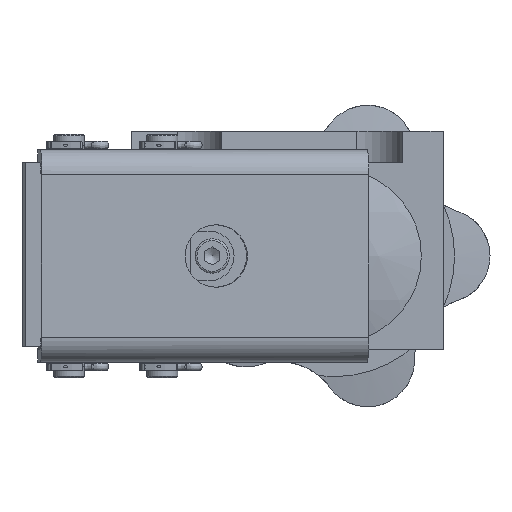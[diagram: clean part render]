
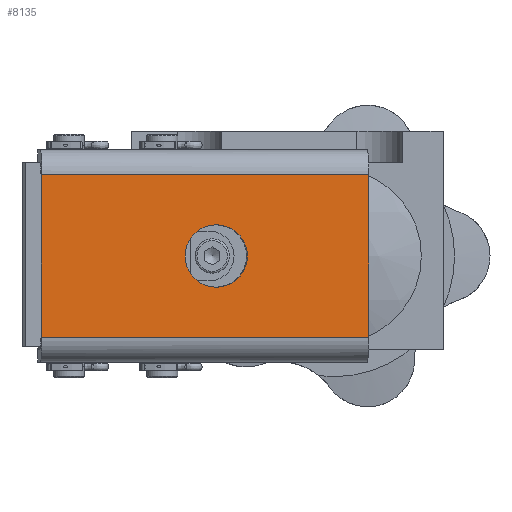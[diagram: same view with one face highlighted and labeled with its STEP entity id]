
A CAD part, left-side view. The second image highlights one B-rep face of the part: STEP entity #8135.
In plain terms, the highlighted planar face has unit normal (-0.998, -0.067, 0).
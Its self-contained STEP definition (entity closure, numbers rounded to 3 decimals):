
#386=FACE_BOUND('',#1534,.T.);
#540=PLANE('',#8918);
#1066=FACE_OUTER_BOUND('',#1533,.T.);
#1533=EDGE_LOOP('',(#7339,#7340,#7341,#7342));
#1534=EDGE_LOOP('',(#7343));
#2027=LINE('',#19386,#2556);
#2049=LINE('',#19458,#2578);
#2058=LINE('',#19482,#2587);
#2059=LINE('',#19483,#2588);
#2556=VECTOR('',#10812,10.);
#2578=VECTOR('',#10888,10.);
#2587=VECTOR('',#10917,10.);
#2588=VECTOR('',#10918,10.);
#3060=CIRCLE('',#8894,5.);
#3853=VERTEX_POINT('',#19383);
#3854=VERTEX_POINT('',#19385);
#3868=VERTEX_POINT('',#19424);
#3877=VERTEX_POINT('',#19456);
#3882=VERTEX_POINT('',#19481);
#5020=EDGE_CURVE('',#3854,#3853,#2027,.T.);
#5041=EDGE_CURVE('',#3868,#3868,#3060,.T.);
#5057=EDGE_CURVE('',#3853,#3877,#2049,.T.);
#5070=EDGE_CURVE('',#3877,#3882,#2058,.T.);
#5071=EDGE_CURVE('',#3854,#3882,#2059,.T.);
#7339=ORIENTED_EDGE('',*,*,#5070,.T.);
#7340=ORIENTED_EDGE('',*,*,#5071,.F.);
#7341=ORIENTED_EDGE('',*,*,#5020,.T.);
#7342=ORIENTED_EDGE('',*,*,#5057,.T.);
#7343=ORIENTED_EDGE('',*,*,#5041,.T.);
#8135=ADVANCED_FACE('',(#1066,#386),#540,.T.);
#8894=AXIS2_PLACEMENT_3D('',#19426,#10850,#10851);
#8918=AXIS2_PLACEMENT_3D('',#19480,#10915,#10916);
#10812=DIRECTION('',(0.,0.,-1.));
#10850=DIRECTION('center_axis',(0.998,0.067,0.));
#10851=DIRECTION('ref_axis',(0.,0.,
-1.));
#10888=DIRECTION('',(0.067,-0.998,0.));
#10915=DIRECTION('center_axis',(-0.998,-0.067,
0.));
#10916=DIRECTION('ref_axis',(-0.067,0.998,0.));
#10917=DIRECTION('',(0.,0.,1.));
#10918=DIRECTION('',(0.067,-0.998,0.));
#19383=CARTESIAN_POINT('',(-24.311,14.289,-15.5));
#19385=CARTESIAN_POINT('',(-24.311,14.289,10.5));
#19386=CARTESIAN_POINT('',(-24.311,14.289,10.5));
#19424=CARTESIAN_POINT('',(-22.444,-13.649,2.5));
#19426=CARTESIAN_POINT('Origin',(-22.444,-13.649,-2.5));
#19456=CARTESIAN_POINT('',(-20.811,-38.094,-15.5));
#19458=CARTESIAN_POINT('',(-24.311,14.289,-15.5));
#19480=CARTESIAN_POINT('Origin',(-24.311,14.289,-15.5));
#19481=CARTESIAN_POINT('',(-20.811,-38.094,10.5));
#19482=CARTESIAN_POINT('',(-20.811,-38.094,10.5));
#19483=CARTESIAN_POINT('',(-24.311,14.289,10.5));
